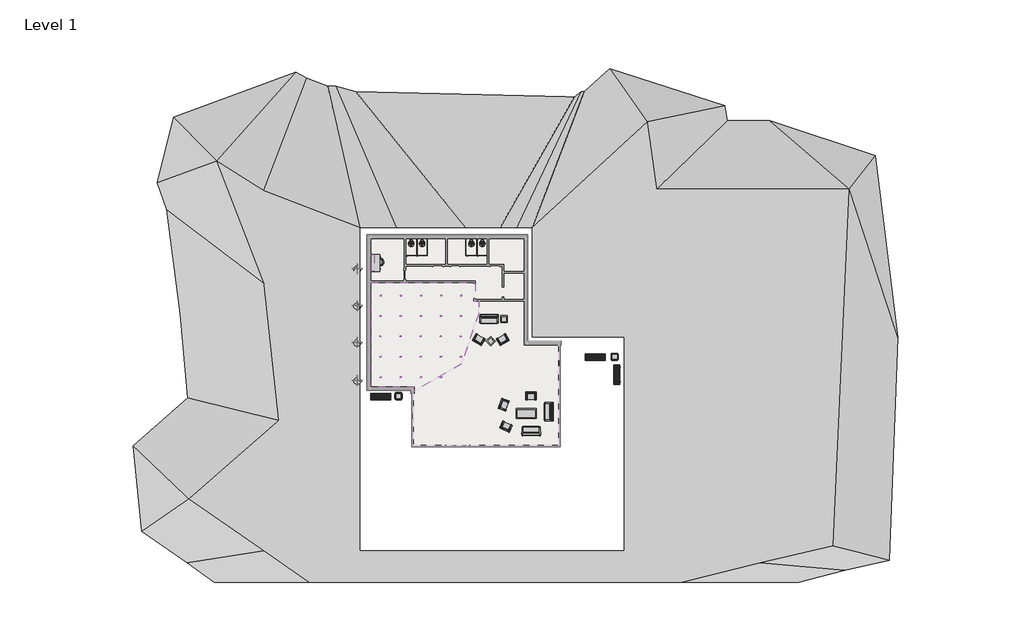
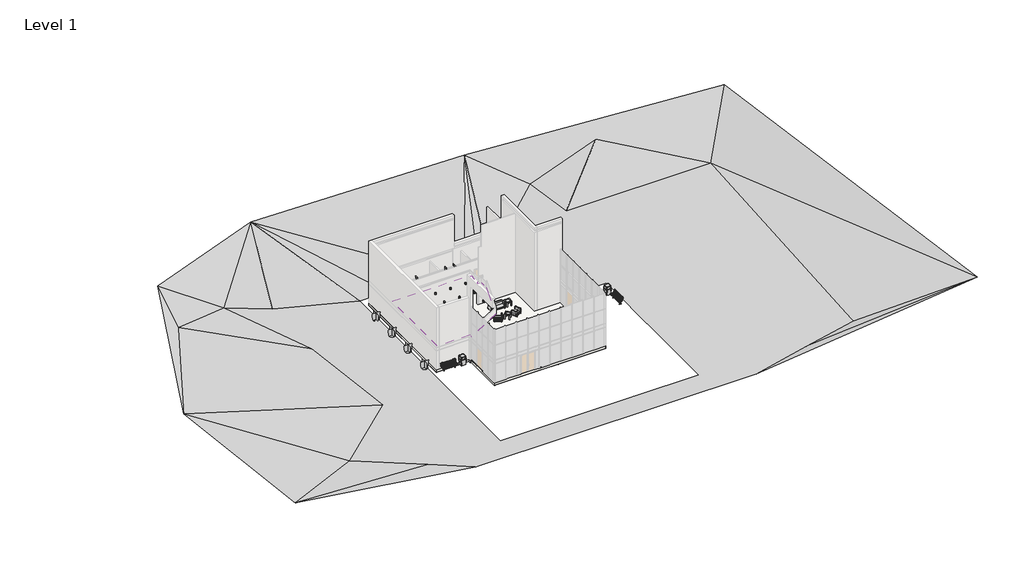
# One storey, part 6 of 6: 24 light fixtures, 14 furniture elements, 9 geographic elements, 4 flow terminals, 4 proxies, 2 slabs, 1 covering.
"""IFC4 building model written with IfcOpenShell, lengths in millimetres."""

from ifc_helpers import new_model, si_unit, point, frame, frame_2d, origin, place, context, project, spatial, polyline, circle_curve, trimmed, segment, composite_curve, outline, extrude, triangles, transform, mapped, element, save
from components import toilet_partition_left_panel_86e2c154, toilet_partition_right_panel_75b5ee8c, m_toilet_commercial_wall_3d_380mm_seat_height_891fc42f, m_chair_corbu_m_chair_corbu_62085674, m_chair_corbu_m_chair_corbu_af930865, m_chair_executive_m_chair_executive_8d69e98c, m_desk_1525_x_762mm_8f660baf, m_sofa_pensi_1650mm_31461fb8, m_table_coffee_0610_x_0610_x_0610mm_65ce43c2, m_table_coffee_0915_x_1830_x_0457mm_134cd960, wall_storage_m_overhead_storage_module_2a725d0f, m_park_bench_1800mm_affd9039, m_trash_can_m_trash_can_952d1acd, rpc_shrub_boxwood_31a8b93a, m_downlight_recessed_can_152mm_incandescent_120v_9e946963

model = new_model("IFC4")

# Units and contexts
model_context = context("Model", 3, world=origin())
ifc_project = project(units=[si_unit("LENGTHUNIT", "METRE", prefix="MILLI")], contexts=[model_context])

# Site, building, storey
site = spatial("IfcSite", under=ifc_project)
building = spatial("IfcBuilding", under=site)
storey = spatial("IfcBuildingStorey", under=building, Name="Level 1", Elevation=45720.0)

# Proxies
placement = place(None, origin())
element("IfcBuildingElementProxy", 1, Name="Building Element Proxy", at=placement, inside=storey, context=model_context, shape_type="Tessellation", body=[
    triangles([(-41428.1642944, -20498.1557922, 48768.0), (-19551.4159058, -20498.1557922, 45720.0), (14417.4734619, -20498.1557922, 45720.0), (41237.1573486, -20498.1557922, 48768.0), (35819.3880432, 23255.3409851, 48768.0), (6851.5562073, 27630.6901978, 47244.0), (-18646.1711609, 28234.1859192, 47244.0), (-32979.2148926, 22953.5919617, 47244.0), (-43389.5282959, -582.771405, 48768.0), (-14938.2288849, -17638.8082306, 45732.6782959), (-14938.2288849, -17593.1110199, 45732.7015503), (-14938.2288849, -13234.14104, 45732.7015503), (-14938.2288849, -10756.0423004, 45744.6124512), (-14938.2288849, -3075.3747826, 45769.6388306), (-14938.2288849, -1483.2915836, 45774.8292114), (-14938.2288849, 2511.0714363, 45785.5262329), (-14938.2288849, 5032.5556091, 45788.5772095), (-14938.2288849, 11773.3104401, 45772.9549072), (-11600.6105164, 11773.3104401, 45770.8015503), (-5282.8159149, 11773.3104401, 45949.5301758), (-2147.8218063, 11773.3104401, 45955.4833008), (-634.5518927, 11773.3104401, 45775.6570679), (758.9712605, 11773.3104401, 45773.6106812), (758.9712605, 11061.46203, 45770.8015503), (758.9712605, 8665.1617859, 45754.8955444), (758.9712605, 5052.8747177, 45774.6059692), (758.9712605, 2919.9441536, 45780.5125854), (758.9712605, 1803.1890633, 45779.0754639), (3604.4020844, 1803.1890633, 45768.2528687), (9140.9711151, 1803.1890633, 45738.3849243), (9140.9711151, 1450.7640633, 45739.3616089), (9140.9711151, -369.7655477, 45744.4031616), (9140.9711151, -6338.6264694, 45736.7292114), (9140.9711151, -7307.9707901, 45732.7015503), (9140.9711151, -8053.5514435, 45732.7015503), (9140.9711151, -14295.842514, 45732.7015503), (9140.9711151, -17638.8082306, 45727.6692993), (1262.9813393, -17638.8082306, 45732.7015503), (-14928.8248077, -17638.8082306, 45732.7015503), (9968.4368866, 6832.0393753, 45720.0), (29567.6417358, 15272.2119873, 45796.2), (-23646.2380554, 6725.5726181, 45760.6393799), (-23646.2380554, 15127.1917694, 45770.8015503), (-27925.6977722, 17821.6645111, 45796.2), (11223.416098, 21387.8805542, 45796.2), (12079.5812805, 15272.2119873, 45770.8015503), (18355.8458588, 2130.3199677, 45745.3984497), (11857.4099579, -1435.8949127, 45732.7015503), (-22299.0016846, -5794.6015366, 45732.7015503), (-15800.5669464, -13402.5261108, 45732.7015503), (11619.6628418, -13244.0276459, 45732.7015503), (9955.429541, -7062.5892563, 45732.7015503), (21446.5653442, -18758.8352142, 45732.7015503), (28103.5008728, -17206.48927, 45732.7015503), (-30461.6708862, -12927.0318787, 45732.7015503), (-23646.2380554, -17638.8082306, 45732.7015503), (-34897.5373352, 15272.2119873, 47244.0), (20279.3528687, 23255.3409851, 47244.0)], [[1, 2, 56], [56, 2, 50], [1, 56, 55], [9, 55, 49], [55, 9, 1], [49, 50, 13], [49, 55, 56], [56, 50, 49], [42, 9, 49], [2, 11, 50], [39, 10, 2], [10, 11, 2], [12, 13, 50], [14, 15, 49], [13, 14, 49], [11, 12, 50], [2, 38, 39], [16, 49, 15], [43, 42, 18], [42, 43, 44], [18, 42, 17], [43, 18, 7], [57, 8, 9], [8, 57, 44], [44, 7, 8], [7, 44, 43], [57, 42, 44], [18, 19, 7], [42, 57, 9], [16, 17, 42], [26, 27, 29], [7, 20, 6], [20, 21, 6], [7, 19, 20], [42, 49, 16], [6, 21, 22], [37, 38, 3], [51, 35, 36], [48, 32, 33], [52, 33, 34], [35, 52, 34], [36, 37, 51], [3, 4, 53], [53, 4, 54], [3, 53, 51], [48, 52, 47], [51, 52, 35], [54, 47, 53], [51, 47, 52], [47, 51, 53], [52, 48, 33], [54, 4, 41], [3, 51, 37], [38, 2, 3], [32, 48, 31], [29, 40, 26], [25, 26, 40], [24, 25, 40], [23, 6, 22], [40, 23, 24], [45, 6, 23], [29, 30, 40], [29, 27, 28], [46, 23, 40], [30, 47, 40], [46, 47, 41], [47, 46, 40], [48, 47, 30], [46, 45, 23], [45, 58, 6], [45, 46, 58], [41, 5, 58], [5, 41, 4], [46, 41, 58], [58, 5, 6], [47, 54, 41], [31, 48, 30]], closed=False),
])
element("IfcBuildingElementProxy", 2, Name="Building Element Proxy", at=placement, inside=storey, context=model_context, shape_type="Tessellation", body=[
    triangles([(-14264.2316528, -3075.3747826, 45419.8415771), (-14264.2316528, -3075.3747826, 45772.2107666), (-12435.5397858, -3075.3747826, 45419.8415771), (-12435.5397858, -3075.3747826, 45779.187085), (-10301.8316528, -3075.3747826, 45419.8415771), (-10301.8316528, -3075.3747826, 45777.1825562), (-10301.8316528, -3321.4373795, 45419.8415771), (-10301.8316528, -3321.4373795, 45776.0012329), (-10189.1187653, -3321.4373795, 45419.8415771), (-10189.1187653, -3321.4373795, 45775.8942627), (-10189.1187653, -8172.8371857, 45419.8415771), (-10189.1187653, -8172.8371857, 45752.5747559), (-4408.8669342, -8172.8371857, 45419.8415771), (-4408.8669342, -8172.8371857, 45747.1471802), (-2489.5785622, -8172.8371857, 45419.8415771), (-2489.5785622, -8172.8371857, 45743.6683228), (3301.4563316, -8172.8371857, 45419.8415771), (3301.4563316, -8172.8371857, 45736.4176025), (3301.4563316, -1147.9467184, 45419.8415771), (3301.4563316, -1147.9467184, 45765.6111694), (3301.4563316, 1100.7639879, 45419.8415771), (3301.4563316, 1100.7639879, 45768.5040161), (3414.1686378, 1100.7639879, 45419.8415771), (3414.1686378, 1100.7639879, 45768.0714844), (3414.1686378, 1450.7640633, 45419.8415771), (3414.1686378, 1450.7640633, 45768.5226196)], [[1, 4, 2], [1, 3, 4], [3, 6, 4], [3, 5, 6], [5, 8, 6], [5, 7, 8], [7, 10, 8], [7, 9, 10], [9, 12, 10], [9, 11, 12], [11, 14, 12], [11, 13, 14], [13, 16, 14], [13, 15, 16], [15, 18, 16], [15, 17, 18], [17, 20, 18], [17, 19, 20], [19, 22, 20], [19, 21, 22], [21, 24, 22], [21, 23, 24], [23, 26, 24], [23, 25, 26]], closed=False),
    triangles([(377.9066568, 1450.7640633, 45419.8415771), (377.9066568, 1450.7640633, 45780.070752), (366.1687105, 1450.7640633, 45419.8415771), (366.1687105, 1450.7640633, 45780.0847046), (366.1687105, 1461.1977287, 45419.8415771), (366.1687105, 1461.1977287, 45780.1312134), (366.1687105, 3074.1085808, 45419.8415771), (366.1687105, 3074.1085808, 45782.2008545), (366.1687105, 4976.9898148, 45419.8415771), (366.1687105, 4976.9898148, 45776.9360596), (366.1687105, 8743.3482925, 45419.8415771), (366.1687105, 8743.3482925, 45756.3838257), (366.1687105, 10915.3581573, 45419.8415771), (366.1687105, 10915.3581573, 45770.8015503), (366.1687105, 11107.3499268, 45419.8415771), (366.1687105, 11107.3499268, 45771.5596436), (-1455.9032845, 11107.3499268, 45419.8415771), (-1455.9032845, 11107.3499268, 45774.2338989), (-2525.7676323, 11107.3499268, 45419.8415771), (-2525.7676323, 11107.3499268, 45901.3656738), (-4742.1724617, 11107.3499268, 45419.8415771), (-4742.1724617, 11107.3499268, 45897.1612793), (-9208.7803482, 11107.3499268, 45419.8415771), (-9208.7803482, 11107.3499268, 45770.8015503), (-14264.2316528, 11107.3499268, 45419.8415771), (-14264.2316528, 11107.3499268, 45774.0618164)], [[1, 4, 2], [1, 3, 4], [3, 6, 4], [3, 5, 6], [5, 8, 6], [5, 7, 8], [7, 10, 8], [7, 9, 10], [9, 12, 10], [9, 11, 12], [11, 14, 12], [11, 13, 14], [13, 16, 14], [13, 15, 16], [15, 18, 16], [15, 17, 18], [17, 20, 18], [17, 19, 20], [19, 22, 20], [19, 21, 22], [21, 24, 22], [21, 23, 24], [23, 26, 24], [23, 25, 26]], closed=False),
    triangles([(-14264.2316528, 11107.3499268, 45419.8415771), (-14264.2316528, 11107.3499268, 45774.0618164), (-14264.2316528, 4251.2335327, 45419.8415771), (-14264.2316528, 4251.2335327, 45789.9538696), (-14264.2316528, 2184.8701263, 45419.8415771), (-14264.2316528, 2184.8701263, 45787.4563477), (-14264.2316528, -1088.5216393, 45419.8415771), (-14264.2316528, -1088.5216393, 45778.68479), (-14264.2316528, -3075.3747826, 45419.8415771), (-14264.2316528, -3075.3747826, 45772.2107666)], [[1, 4, 2], [1, 3, 4], [3, 6, 4], [3, 5, 6], [5, 8, 6], [5, 7, 8], [7, 10, 8], [7, 9, 10]], closed=False),
    triangles([(-14264.2316528, 11107.3499268, 45419.8415771), (-14264.2316528, -3075.3747826, 45419.8415771), (-10301.8316528, -3075.3747826, 45419.8415771), (-10301.8316528, -3321.4373795, 45419.8415771), (-10189.1187653, -3321.4373795, 45419.8415771), (-10189.1187653, -8172.8371857, 45419.8415771), (3301.4563316, -8172.8371857, 45419.8415771), (3301.4563316, 1100.7639879, 45419.8415771), (3414.1686378, 1100.7639879, 45419.8415771), (3414.1686378, 1450.7640633, 45419.8415771), (366.1687105, 1450.7640633, 45419.8415771), (366.1687105, 11107.3499268, 45419.8415771)], [[5, 6, 7], [4, 5, 3], [1, 2, 3], [11, 1, 3], [3, 5, 11], [7, 8, 11], [8, 9, 10], [10, 11, 8], [11, 12, 1], [7, 11, 5]], closed=False),
])
toilet_partition_left_panel_shape = toilet_partition_left_panel_86e2c154(model_context)
element("IfcBuildingElementProxy", 3, Name="Toilet Partition : Left Panel", ObjectType="Toilet Partition : Left Panel", at=placement, inside=storey, context=model_context, shape_type="MappedRepresentation", body=[
    mapped(toilet_partition_left_panel_shape, transform((-4228.0563072, 9199.1751138, 45720.0), x_axis=(1.0, 0.0, 0.0), y_axis=(0.0, 1.0, 0.0), z_axis=(0.0, 0.0, 1.0))),
])
toilet_partition_right_panel_shape = toilet_partition_right_panel_75b5ee8c(model_context)
element("IfcBuildingElementProxy", 4, Name="Toilet Partition : Right Panel", ObjectType="Toilet Partition : Right Panel", at=placement, inside=storey, context=model_context, shape_type="MappedRepresentation", body=[
    mapped(toilet_partition_right_panel_shape, transform((-9689.0560279, 9199.1751138, 45720.0), x_axis=(1.0, 0.0, 0.0), y_axis=(0.0, 1.0, 0.0), z_axis=(0.0, 0.0, 1.0))),
])

# Covering
element("IfcCovering", 5, ObjectType="Plain", at=placement, inside=storey, context=model_context, shape_type="SweptSolid", body=[
    extrude(outline(composite_curve([segment(polyline([(-13914.2313072, 6754.4001138), (-4531.8153553, 6754.4001138), (-4531.8153553, 6665.5251138), (-4404.7653553, 6665.5251138), (-4404.7653553, 5293.9251138), (-4531.8153553, 5293.9251138), (-4531.8153553, 5078.0001138), (-4111.4066434, 5078.0001138), (-4111.4066434, 3987.7203366)]), True, "CONTINUOUS"), segment(trimmed(circle_curve(frame_2d((-10970.1665049, 3705.9461435)), 6864.545399), [point((-4111.4066434, 3987.7203366))], [point((-9951.8313072, -3082.6455337))], False, "CARTESIAN"), True, "CONTINUOUS"), segment(polyline([(-9951.8313072, -3082.6455337), (-9951.8313072, -2725.3748862), (-13914.2313072, -2725.3748862), (-13914.2313072, 6635.1698262), (-13914.2313072, 6754.4001138)]), True, "CONTINUOUS")], self_intersect=False), holes=[composite_curve([segment(trimmed(circle_curve(frame_2d((-5706.0188072, 3714.1698262)), 75.0), [point((-5781.0188072, 3714.1698262))], [point((-5631.0188072, 3714.1698262))], True, "CARTESIAN"), True, "CONTINUOUS"), segment(trimmed(circle_curve(frame_2d((-5706.0188072, 3714.1698262)), 75.0), [point((-5631.0188072, 3714.1698262))], [point((-5781.0188072, 3714.1698262))], True, "CARTESIAN"), True, "CONTINUOUS")], self_intersect=False), composite_curve([segment(trimmed(circle_curve(frame_2d((-5706.0188072, 5573.3251138)), 75.0), [point((-5781.0188072, 5573.3251138))], [point((-5631.0188072, 5573.3251138))], True, "CARTESIAN"), True, "CONTINUOUS"), segment(trimmed(circle_curve(frame_2d((-5706.0188072, 5573.3251138)), 75.0), [point((-5631.0188072, 5573.3251138))], [point((-5781.0188072, 5573.3251138))], True, "CARTESIAN"), True, "CONTINUOUS")], self_intersect=False), composite_curve([segment(trimmed(circle_curve(frame_2d((-7534.8188072, 3714.1698262)), 75.0), [point((-7609.8188072, 3714.1698262))], [point((-7459.8188072, 3714.1698262))], True, "CARTESIAN"), True, "CONTINUOUS"), segment(trimmed(circle_curve(frame_2d((-7534.8188072, 3714.1698262)), 75.0), [point((-7459.8188072, 3714.1698262))], [point((-7609.8188072, 3714.1698262))], True, "CARTESIAN"), True, "CONTINUOUS")], self_intersect=False), composite_curve([segment(trimmed(circle_curve(frame_2d((-7534.8188072, 5573.3251138)), 75.0), [point((-7609.8188072, 5573.3251138))], [point((-7459.8188072, 5573.3251138))], True, "CARTESIAN"), True, "CONTINUOUS"), segment(trimmed(circle_curve(frame_2d((-7534.8188072, 5573.3251138)), 75.0), [point((-7459.8188072, 5573.3251138))], [point((-7609.8188072, 5573.3251138))], True, "CARTESIAN"), True, "CONTINUOUS")], self_intersect=False), composite_curve([segment(trimmed(circle_curve(frame_2d((-9363.6188072, 3714.1698262)), 75.0), [point((-9438.6188072, 3714.1698262))], [point((-9288.6188072, 3714.1698262))], True, "CARTESIAN"), True, "CONTINUOUS"), segment(trimmed(circle_curve(frame_2d((-9363.6188072, 3714.1698262)), 75.0), [point((-9288.6188072, 3714.1698262))], [point((-9438.6188072, 3714.1698262))], True, "CARTESIAN"), True, "CONTINUOUS")], self_intersect=False), composite_curve([segment(trimmed(circle_curve(frame_2d((-9363.6188072, 5573.3251138)), 75.0), [point((-9438.6188072, 5573.3251138))], [point((-9288.6188072, 5573.3251138))], True, "CARTESIAN"), True, "CONTINUOUS"), segment(trimmed(circle_curve(frame_2d((-9363.6188072, 5573.3251138)), 75.0), [point((-9288.6188072, 5573.3251138))], [point((-9438.6188072, 5573.3251138))], True, "CARTESIAN"), True, "CONTINUOUS")], self_intersect=False), composite_curve([segment(trimmed(circle_curve(frame_2d((-11192.4188072, 3714.1698262)), 75.0), [point((-11267.4188072, 3714.1698262))], [point((-11117.4188072, 3714.1698262))], True, "CARTESIAN"), True, "CONTINUOUS"), segment(trimmed(circle_curve(frame_2d((-11192.4188072, 3714.1698262)), 75.0), [point((-11117.4188072, 3714.1698262))], [point((-11267.4188072, 3714.1698262))], True, "CARTESIAN"), True, "CONTINUOUS")], self_intersect=False), composite_curve([segment(trimmed(circle_curve(frame_2d((-11192.4188072, 5573.3251138)), 75.0), [point((-11267.4188072, 5573.3251138))], [point((-11117.4188072, 5573.3251138))], True, "CARTESIAN"), True, "CONTINUOUS"), segment(trimmed(circle_curve(frame_2d((-11192.4188072, 5573.3251138)), 75.0), [point((-11117.4188072, 5573.3251138))], [point((-11267.4188072, 5573.3251138))], True, "CARTESIAN"), True, "CONTINUOUS")], self_intersect=False), composite_curve([segment(trimmed(circle_curve(frame_2d((-13021.2188072, 3714.1698262)), 75.0), [point((-13096.2188072, 3714.1698262))], [point((-12946.2188072, 3714.1698262))], True, "CARTESIAN"), True, "CONTINUOUS"), segment(trimmed(circle_curve(frame_2d((-13021.2188072, 3714.1698262)), 75.0), [point((-12946.2188072, 3714.1698262))], [point((-13096.2188072, 3714.1698262))], True, "CARTESIAN"), True, "CONTINUOUS")], self_intersect=False), composite_curve([segment(trimmed(circle_curve(frame_2d((-13021.2188072, 5573.3251138)), 75.0), [point((-13096.2188072, 5573.3251138))], [point((-12946.2188072, 5573.3251138))], True, "CARTESIAN"), True, "CONTINUOUS"), segment(trimmed(circle_curve(frame_2d((-13021.2188072, 5573.3251138)), 75.0), [point((-12946.2188072, 5573.3251138))], [point((-13096.2188072, 5573.3251138))], True, "CARTESIAN"), True, "CONTINUOUS")], self_intersect=False), composite_curve([segment(trimmed(circle_curve(frame_2d((-5706.0188072, 1859.9698262)), 75.0), [point((-5781.0188072, 1859.9698262))], [point((-5631.0188072, 1859.9698262))], True, "CARTESIAN"), True, "CONTINUOUS"), segment(trimmed(circle_curve(frame_2d((-5706.0188072, 1859.9698262)), 75.0), [point((-5631.0188072, 1859.9698262))], [point((-5781.0188072, 1859.9698262))], True, "CARTESIAN"), True, "CONTINUOUS")], self_intersect=False), composite_curve([segment(trimmed(circle_curve(frame_2d((-7534.8188072, 1859.9698262)), 75.0), [point((-7609.8188072, 1859.9698262))], [point((-7459.8188072, 1859.9698262))], True, "CARTESIAN"), True, "CONTINUOUS"), segment(trimmed(circle_curve(frame_2d((-7534.8188072, 1859.9698262)), 75.0), [point((-7459.8188072, 1859.9698262))], [point((-7609.8188072, 1859.9698262))], True, "CARTESIAN"), True, "CONTINUOUS")], self_intersect=False), composite_curve([segment(trimmed(circle_curve(frame_2d((-9363.6188072, 1859.9698262)), 75.0), [point((-9438.6188072, 1859.9698262))], [point((-9288.6188072, 1859.9698262))], True, "CARTESIAN"), True, "CONTINUOUS"), segment(trimmed(circle_curve(frame_2d((-9363.6188072, 1859.9698262)), 75.0), [point((-9288.6188072, 1859.9698262))], [point((-9438.6188072, 1859.9698262))], True, "CARTESIAN"), True, "CONTINUOUS")], self_intersect=False), composite_curve([segment(trimmed(circle_curve(frame_2d((-11192.4188072, 1859.9698262)), 75.0), [point((-11267.4188072, 1859.9698262))], [point((-11117.4188072, 1859.9698262))], True, "CARTESIAN"), True, "CONTINUOUS"), segment(trimmed(circle_curve(frame_2d((-11192.4188072, 1859.9698262)), 75.0), [point((-11117.4188072, 1859.9698262))], [point((-11267.4188072, 1859.9698262))], True, "CARTESIAN"), True, "CONTINUOUS")], self_intersect=False), composite_curve([segment(trimmed(circle_curve(frame_2d((-13021.2188072, 1859.9698262)), 75.0), [point((-13096.2188072, 1859.9698262))], [point((-12946.2188072, 1859.9698262))], True, "CARTESIAN"), True, "CONTINUOUS"), segment(trimmed(circle_curve(frame_2d((-13021.2188072, 1859.9698262)), 75.0), [point((-12946.2188072, 1859.9698262))], [point((-13096.2188072, 1859.9698262))], True, "CARTESIAN"), True, "CONTINUOUS")], self_intersect=False), composite_curve([segment(trimmed(circle_curve(frame_2d((-7534.8188072, 5.7698262)), 75.0), [point((-7609.8188072, 5.7698262))], [point((-7459.8188072, 5.7698262))], True, "CARTESIAN"), True, "CONTINUOUS"), segment(trimmed(circle_curve(frame_2d((-7534.8188072, 5.7698262)), 75.0), [point((-7459.8188072, 5.7698262))], [point((-7609.8188072, 5.7698262))], True, "CARTESIAN"), True, "CONTINUOUS")], self_intersect=False), composite_curve([segment(trimmed(circle_curve(frame_2d((-9363.6188072, 5.7698262)), 75.0), [point((-9438.6188072, 5.7698262))], [point((-9288.6188072, 5.7698262))], True, "CARTESIAN"), True, "CONTINUOUS"), segment(trimmed(circle_curve(frame_2d((-9363.6188072, 5.7698262)), 75.0), [point((-9288.6188072, 5.7698262))], [point((-9438.6188072, 5.7698262))], True, "CARTESIAN"), True, "CONTINUOUS")], self_intersect=False), composite_curve([segment(trimmed(circle_curve(frame_2d((-11192.4188072, 5.7698262)), 75.0), [point((-11267.4188072, 5.7698262))], [point((-11117.4188072, 5.7698262))], True, "CARTESIAN"), True, "CONTINUOUS"), segment(trimmed(circle_curve(frame_2d((-11192.4188072, 5.7698262)), 75.0), [point((-11117.4188072, 5.7698262))], [point((-11267.4188072, 5.7698262))], True, "CARTESIAN"), True, "CONTINUOUS")], self_intersect=False), composite_curve([segment(trimmed(circle_curve(frame_2d((-13021.2188072, 5.7698262)), 75.0), [point((-13096.2188072, 5.7698262))], [point((-12946.2188072, 5.7698262))], True, "CARTESIAN"), True, "CONTINUOUS"), segment(trimmed(circle_curve(frame_2d((-13021.2188072, 5.7698262)), 75.0), [point((-12946.2188072, 5.7698262))], [point((-13096.2188072, 5.7698262))], True, "CARTESIAN"), True, "CONTINUOUS")], self_intersect=False), composite_curve([segment(trimmed(circle_curve(frame_2d((-7534.8188072, -1848.4301738)), 75.0), [point((-7609.8188072, -1848.4301738))], [point((-7459.8188072, -1848.4301738))], True, "CARTESIAN"), True, "CONTINUOUS"), segment(trimmed(circle_curve(frame_2d((-7534.8188072, -1848.4301738)), 75.0), [point((-7459.8188072, -1848.4301738))], [point((-7609.8188072, -1848.4301738))], True, "CARTESIAN"), True, "CONTINUOUS")], self_intersect=False), composite_curve([segment(trimmed(circle_curve(frame_2d((-9363.6188072, -1848.4301738)), 75.0), [point((-9438.6188072, -1848.4301738))], [point((-9288.6188072, -1848.4301738))], True, "CARTESIAN"), True, "CONTINUOUS"), segment(trimmed(circle_curve(frame_2d((-9363.6188072, -1848.4301738)), 75.0), [point((-9288.6188072, -1848.4301738))], [point((-9438.6188072, -1848.4301738))], True, "CARTESIAN"), True, "CONTINUOUS")], self_intersect=False), composite_curve([segment(trimmed(circle_curve(frame_2d((-11192.4188072, -1848.4301738)), 75.0), [point((-11267.4188072, -1848.4301738))], [point((-11117.4188072, -1848.4301738))], True, "CARTESIAN"), True, "CONTINUOUS"), segment(trimmed(circle_curve(frame_2d((-11192.4188072, -1848.4301738)), 75.0), [point((-11117.4188072, -1848.4301738))], [point((-11267.4188072, -1848.4301738))], True, "CARTESIAN"), True, "CONTINUOUS")], self_intersect=False), composite_curve([segment(trimmed(circle_curve(frame_2d((-13021.2188072, -1848.4301738)), 75.0), [point((-13096.2188072, -1848.4301738))], [point((-12946.2188072, -1848.4301738))], True, "CARTESIAN"), True, "CONTINUOUS"), segment(trimmed(circle_curve(frame_2d((-13021.2188072, -1848.4301738)), 75.0), [point((-12946.2188072, -1848.4301738))], [point((-13096.2188072, -1848.4301738))], True, "CARTESIAN"), True, "CONTINUOUS")], self_intersect=False), composite_curve([segment(trimmed(circle_curve(frame_2d((-5706.0188072, 5.7698262)), 75.0), [point((-5781.0188072, 5.7698262))], [point((-5631.0188072, 5.7698262))], True, "CARTESIAN"), True, "CONTINUOUS"), segment(trimmed(circle_curve(frame_2d((-5706.0188072, 5.7698262)), 75.0), [point((-5631.0188072, 5.7698262))], [point((-5781.0188072, 5.7698262))], True, "CARTESIAN"), True, "CONTINUOUS")], self_intersect=False)]), frame((0.0, 0.0, 48463.2), z_axis=(0.0, 0.0, 1.0), x_axis=(1.0, 0.0, 0.0)), (0.0, 0.0, 1.0), 57.0),
])

# Flow terminals
m_toilet_commercial_wall_3d_380mm_seat_height_shape = m_toilet_commercial_wall_3d_380mm_seat_height_891fc42f(model_context)
element("IfcFlowTerminal", 6, ObjectType="M_Toilet-Commercial-Wall-3D : 380mm Seat Height", at=placement, inside=storey, context=model_context, shape_type="MappedRepresentation", body=[
    mapped(m_toilet_commercial_wall_3d_380mm_seat_height_shape, transform((-4362.9031534, 10932.3501138, 45720.0), x_axis=(-1.0, 0.0, 0.0), y_axis=(0.0, -1.0, 0.0), z_axis=(0.0, 0.0, 1.0))),
])
element("IfcFlowTerminal", 7, ObjectType="M_Toilet-Commercial-Wall-3D : 380mm Seat Height", at=placement, inside=storey, context=model_context, shape_type="MappedRepresentation", body=[
    mapped(m_toilet_commercial_wall_3d_380mm_seat_height_shape, transform((-3365.9531534, 10932.3501138, 45720.0), x_axis=(-1.0, 0.0, 0.0), y_axis=(0.0, -1.0, 0.0), z_axis=(0.0, 0.0, 1.0))),
])
element("IfcFlowTerminal", 8, ObjectType="M_Toilet-Commercial-Wall-3D : 380mm Seat Height", at=placement, inside=storey, context=model_context, shape_type="MappedRepresentation", body=[
    mapped(m_toilet_commercial_wall_3d_380mm_seat_height_shape, transform((-9836.6028741, 10932.3501138, 45720.0), x_axis=(-1.0, 0.0, 0.0), y_axis=(0.0, -1.0, 0.0), z_axis=(0.0, 0.0, 1.0))),
])
element("IfcFlowTerminal", 9, ObjectType="M_Toilet-Commercial-Wall-3D : 380mm Seat Height", at=placement, inside=storey, context=model_context, shape_type="MappedRepresentation", body=[
    mapped(m_toilet_commercial_wall_3d_380mm_seat_height_shape, transform((-8839.6528741, 10932.3501138, 45720.0), x_axis=(-1.0, 0.0, 0.0), y_axis=(0.0, -1.0, 0.0), z_axis=(0.0, 0.0, 1.0))),
])

# Furniture
m_chair_corbu_m_chair_corbu_shape = m_chair_corbu_m_chair_corbu_62085674(model_context)
element("IfcFurniture", 10, ObjectType="M_Chair-Corbu : M_Chair-Corbu", at=placement, inside=storey, context=model_context, shape_type="MappedRepresentation", body=[
    mapped(m_chair_corbu_m_chair_corbu_shape, transform((-3364.9045663, 1687.1656632, 45720.0), x_axis=(-0.8660254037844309, 0.5000000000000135, 0.0), y_axis=(-0.5000000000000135, -0.8660254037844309, 0.0), z_axis=(0.0, 0.0, 1.0))),
])
element("IfcFurniture", 11, ObjectType="M_Chair-Corbu : M_Chair-Corbu", at=placement, inside=storey, context=model_context, shape_type="MappedRepresentation", body=[
    mapped(m_chair_corbu_m_chair_corbu_shape, transform((-1575.5129686, -5056.2676777, 45720.0), x_axis=(0.3255681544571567, 0.9455185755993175, 0.0), y_axis=(-0.9455185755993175, 0.3255681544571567, 0.0), z_axis=(0.0, 0.0, 1.0))),
])
element("IfcFurniture", 12, ObjectType="M_Chair-Corbu : M_Chair-Corbu", at=placement, inside=storey, context=model_context, shape_type="MappedRepresentation", body=[
    mapped(m_chair_corbu_m_chair_corbu_shape, transform((-900.9288538, -6150.1458279, 45720.0), x_axis=(-0.9135454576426, 0.40673664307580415, 0.0), y_axis=(-0.40673664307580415, -0.9135454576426, 0.0), z_axis=(0.0, 0.0, 1.0))),
])
element("IfcFurniture", 13, ObjectType="M_Chair-Corbu : M_Chair-Corbu", at=placement, inside=storey, context=model_context, shape_type="MappedRepresentation", body=[
    mapped(m_chair_corbu_m_chair_corbu_shape, transform((73.7824223, -4018.2255465, 45720.0), x_axis=(1.0, 0.0, 0.0), y_axis=(0.0, 1.0, 0.0), z_axis=(0.0, 0.0, 1.0))),
])
m_chair_corbu_m_chair_corbu_2_shape = m_chair_corbu_m_chair_corbu_af930865(model_context)
element("IfcFurniture", 14, ObjectType="M_Chair-Corbu : M_Chair-Corbu", at=placement, inside=storey, context=model_context, shape_type="MappedRepresentation", body=[
    mapped(m_chair_corbu_m_chair_corbu_2_shape, transform((-2645.916353, 1687.1656632, 45720.0), x_axis=(0.8660254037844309, 0.5000000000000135, 0.0), y_axis=(-0.5000000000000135, 0.8660254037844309, 0.0), z_axis=(0.0, 0.0, 1.0))),
])
m_chair_executive_m_chair_executive_shape = m_chair_executive_m_chair_executive_8d69e98c(model_context)
element("IfcFurniture", 15, ObjectType="M_Chair-Executive : M_Chair-Executive", at=placement, inside=storey, context=model_context, shape_type="MappedRepresentation", body=[
    mapped(m_chair_executive_m_chair_executive_shape, transform((-13092.7604056, 8480.3342941, 45720.0), x_axis=(0.0, 1.0, 0.0), y_axis=(-1.0, 0.0, 0.0), z_axis=(0.0, 0.0, 1.0))),
])
m_desk_1525_x_762mm_shape = m_desk_1525_x_762mm_8f660baf(model_context)
element("IfcFurniture", 16, ObjectType="M_Desk : 1525 x 762mm", at=placement, inside=storey, context=model_context, shape_type="MappedRepresentation", body=[
    mapped(m_desk_1525_x_762mm_shape, transform((-13108.8563072, 7779.7751138, 45720.0), x_axis=(0.0, 1.0, 0.0), y_axis=(-1.0, 0.0, 0.0), z_axis=(0.0, 0.0, 1.0))),
])
m_sofa_pensi_1650mm_shape = m_sofa_pensi_1650mm_31461fb8(model_context)
element("IfcFurniture", 17, ObjectType="M_Sofa-Pensi : 1650mm", at=placement, inside=storey, context=model_context, shape_type="MappedRepresentation", body=[
    mapped(m_sofa_pensi_1650mm_shape, transform((951.1624428, -6486.0275502, 45720.0), x_axis=(-1.0, 0.0, 0.0), y_axis=(0.0, -1.0, 0.0), z_axis=(0.0, 0.0, 1.0))),
])
element("IfcFurniture", 18, ObjectType="M_Sofa-Pensi : 1650mm", at=placement, inside=storey, context=model_context, shape_type="MappedRepresentation", body=[
    mapped(m_sofa_pensi_1650mm_shape, transform((1995.6463567, -4706.5311362, 45720.0), x_axis=(0.0, -1.0, 0.0), y_axis=(1.0, 0.0, 0.0), z_axis=(0.0, 0.0, 1.0))),
])
element("IfcFurniture", 19, ObjectType="M_Sofa-Pensi : 1650mm", at=placement, inside=storey, context=model_context, shape_type="MappedRepresentation", body=[
    mapped(m_sofa_pensi_1650mm_shape, transform((-3441.4500572, 3162.6152777, 45720.0), x_axis=(1.0, 0.0, 0.0), y_axis=(0.0, 1.0, 0.0), z_axis=(0.0, 0.0, 1.0))),
])
m_table_coffee_0610_x_0610_x_0610mm_shape = m_table_coffee_0610_x_0610_x_0610mm_65ce43c2(model_context)
element("IfcFurniture", 20, ObjectType="M_Table-Coffee : 0610 x 0610 x 0610mm", at=placement, inside=storey, context=model_context, shape_type="MappedRepresentation", body=[
    mapped(m_table_coffee_0610_x_0610_x_0610mm_shape, transform((-3093.6475113, 1365.3306076, 45720.0), x_axis=(0.6953467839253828, -0.7186743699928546, 0.0), y_axis=(0.7186743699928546, 0.6953467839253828, 0.0), z_axis=(0.0, 0.0, 1.0))),
])
element("IfcFurniture", 21, ObjectType="M_Table-Coffee : 0610 x 0610 x 0610mm", at=placement, inside=storey, context=model_context, shape_type="MappedRepresentation", body=[
    mapped(m_table_coffee_0610_x_0610_x_0610mm_shape, transform((-1833.3220739, 3344.514036, 45720.0), x_axis=(1.0, 0.0, 0.0), y_axis=(0.0, 1.0, 0.0), z_axis=(0.0, 0.0, 1.0))),
])
m_table_coffee_0915_x_1830_x_0457mm_shape = m_table_coffee_0915_x_1830_x_0457mm_134cd960(model_context)
element("IfcFurniture", 22, ObjectType="M_Table-Coffee : 0915 x 1830 x 0457mm", at=placement, inside=storey, context=model_context, shape_type="MappedRepresentation", body=[
    mapped(m_table_coffee_0915_x_1830_x_0457mm_shape, transform((233.6219595, -5067.748357, 45720.0), x_axis=(-1.0, 0.0, 0.0), y_axis=(0.0, -1.0, 0.0), z_axis=(0.0, 0.0, 1.0))),
])
wall_storage_m_overhead_storage_module_shape = wall_storage_m_overhead_storage_module_2a725d0f(model_context)
element("IfcFurniture", 23, ObjectType="Wall Storage_m : Overhead Storage Module", at=placement, inside=storey, context=model_context, shape_type="MappedRepresentation", body=[
    mapped(wall_storage_m_overhead_storage_module_shape, transform((-13670.4676682, 8700.1325842, 45720.0), x_axis=(0.0, 1.0, 0.0), y_axis=(-1.0, 0.0, 0.0), z_axis=(0.0, 0.0, 1.0))),
])

# Geographic elements
m_park_bench_1800mm_shape = m_park_bench_1800mm_affd9039(model_context)
element("IfcGeographicElement", 24, ObjectType="M_Park Bench : 1800mm", at=placement, inside=storey, context=model_context, shape_type="MappedRepresentation", body=[
    mapped(m_park_bench_1800mm_shape, transform((6493.0212343, 0.41068, 45754.9490804), x_axis=(1.0, 0.0, 0.0), y_axis=(0.0, 1.0, 0.0), z_axis=(0.0, 0.0, 1.0))),
])
element("IfcGeographicElement", 25, ObjectType="M_Park Bench : 1800mm", at=placement, inside=storey, context=model_context, shape_type="MappedRepresentation", body=[
    mapped(m_park_bench_1800mm_shape, transform((8474.2212343, -1618.83932, 45745.3321721), x_axis=(0.0, -1.0, 0.0), y_axis=(1.0, 0.0, 0.0), z_axis=(0.0, 0.0, 1.0))),
])
element("IfcGeographicElement", 26, ObjectType="M_Park Bench : 1800mm", at=placement, inside=storey, context=model_context, shape_type="MappedRepresentation", body=[
    mapped(m_park_bench_1800mm_shape, transform((-13014.1787657, -3600.03932, 45773.3590698), x_axis=(1.0, 0.0, 0.0), y_axis=(0.0, 1.0, 0.0), z_axis=(0.0, 0.0, 1.0))),
])
m_trash_can_m_trash_can_shape = m_trash_can_m_trash_can_952d1acd(model_context)
element("IfcGeographicElement", 27, ObjectType="M_Trash Can : M_Trash Can", at=placement, inside=storey, context=model_context, shape_type="MappedRepresentation", body=[
    mapped(m_trash_can_m_trash_can_shape, transform((-11388.2552278, -3573.4289276, 45775.8103844), x_axis=(0.9999995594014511, 0.0, -0.0009387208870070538), y_axis=(4.512744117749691e-06, 0.9999884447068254, 0.004807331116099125), z_axis=(0.0009387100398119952, -0.004807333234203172, 0.9999880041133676))),
])
element("IfcGeographicElement", 28, ObjectType="M_Trash Can : M_Trash Can", at=placement, inside=storey, context=model_context, shape_type="MappedRepresentation", body=[
    mapped(m_trash_can_m_trash_can_shape, transform((8255.2185031, 0.41068, 45748.1554803), x_axis=(0.9999854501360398, 0.0, -0.005394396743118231), y_axis=(-1.4934271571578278e-05, 0.9999961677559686, -0.0027684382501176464), z_axis=(0.0053943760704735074, 0.0027684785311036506, 0.9999816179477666))),
])
rpc_shrub_boxwood_shape = rpc_shrub_boxwood_31a8b93a(model_context)
element("IfcGeographicElement", 29, ObjectType="RPC Shrub : Boxwood", at=placement, inside=storey, context=model_context, shape_type="MappedRepresentation", body=[
    mapped(rpc_shrub_boxwood_shape, transform((-15141.4287657, 4657.1474155, 45787.4233242), x_axis=(1.0, 0.0, 0.0), y_axis=(0.0, 1.0, 0.0), z_axis=(0.0, 0.0, 1.0))),
])
element("IfcGeographicElement", 30, ObjectType="RPC Shrub : Boxwood", at=placement, inside=storey, context=model_context, shape_type="MappedRepresentation", body=[
    mapped(rpc_shrub_boxwood_shape, transform((-15141.4287657, 1325.929945, 45781.5090272), x_axis=(1.0, 0.0, 0.0), y_axis=(0.0, 1.0, 0.0), z_axis=(0.0, 0.0, 1.0))),
])
element("IfcGeographicElement", 31, ObjectType="RPC Shrub : Boxwood", at=placement, inside=storey, context=model_context, shape_type="MappedRepresentation", body=[
    mapped(rpc_shrub_boxwood_shape, transform((-15141.4287657, -2143.7025845, 45771.901212), x_axis=(1.0, 0.0, 0.0), y_axis=(0.0, 1.0, 0.0), z_axis=(0.0, 0.0, 1.0))),
])
element("IfcGeographicElement", 32, ObjectType="RPC Shrub : Boxwood", at=placement, inside=storey, context=model_context, shape_type="MappedRepresentation", body=[
    mapped(rpc_shrub_boxwood_shape, transform((-15141.4287657, 8016.2974155, 45781.101183), x_axis=(1.0, 0.0, 0.0), y_axis=(0.0, 1.0, 0.0), z_axis=(0.0, 0.0, 1.0))),
])

# Light fixtures
m_downlight_recessed_can_152mm_incandescent_120v_shape = m_downlight_recessed_can_152mm_incandescent_120v_9e946963(model_context)
element("IfcLightFixture", 33, ObjectType="M_Downlight - Recessed Can : 152mm Incandescent - 120V", at=placement, inside=storey, context=model_context, shape_type="MappedRepresentation", body=[
    mapped(m_downlight_recessed_can_152mm_incandescent_120v_shape, transform((-13021.2188072, 5573.3251138, 46024.8), x_axis=(1.0, 0.0, 0.0), y_axis=(0.0, 1.0, 0.0), z_axis=(0.0, 0.0, 1.0))),
])
element("IfcLightFixture", 34, ObjectType="M_Downlight - Recessed Can : 152mm Incandescent - 120V", at=placement, inside=storey, context=model_context, shape_type="MappedRepresentation", body=[
    mapped(m_downlight_recessed_can_152mm_incandescent_120v_shape, transform((-13021.2188072, 3714.1698262, 46024.8), x_axis=(1.0, 0.0, 0.0), y_axis=(0.0, 1.0, 0.0), z_axis=(0.0, 0.0, 1.0))),
])
element("IfcLightFixture", 35, ObjectType="M_Downlight - Recessed Can : 152mm Incandescent - 120V", at=placement, inside=storey, context=model_context, shape_type="MappedRepresentation", body=[
    mapped(m_downlight_recessed_can_152mm_incandescent_120v_shape, transform((-11192.4188072, 5573.3251138, 46024.8), x_axis=(1.0, 0.0, 0.0), y_axis=(0.0, 1.0, 0.0), z_axis=(0.0, 0.0, 1.0))),
])
element("IfcLightFixture", 36, ObjectType="M_Downlight - Recessed Can : 152mm Incandescent - 120V", at=placement, inside=storey, context=model_context, shape_type="MappedRepresentation", body=[
    mapped(m_downlight_recessed_can_152mm_incandescent_120v_shape, transform((-11192.4188072, 3714.1698262, 46024.8), x_axis=(1.0, 0.0, 0.0), y_axis=(0.0, 1.0, 0.0), z_axis=(0.0, 0.0, 1.0))),
])
element("IfcLightFixture", 37, ObjectType="M_Downlight - Recessed Can : 152mm Incandescent - 120V", at=placement, inside=storey, context=model_context, shape_type="MappedRepresentation", body=[
    mapped(m_downlight_recessed_can_152mm_incandescent_120v_shape, transform((-9363.6188072, 5573.3251138, 46024.8), x_axis=(1.0, 0.0, 0.0), y_axis=(0.0, 1.0, 0.0), z_axis=(0.0, 0.0, 1.0))),
])
element("IfcLightFixture", 38, ObjectType="M_Downlight - Recessed Can : 152mm Incandescent - 120V", at=placement, inside=storey, context=model_context, shape_type="MappedRepresentation", body=[
    mapped(m_downlight_recessed_can_152mm_incandescent_120v_shape, transform((-9363.6188072, 3714.1698262, 46024.8), x_axis=(1.0, 0.0, 0.0), y_axis=(0.0, 1.0, 0.0), z_axis=(0.0, 0.0, 1.0))),
])
element("IfcLightFixture", 39, ObjectType="M_Downlight - Recessed Can : 152mm Incandescent - 120V", at=placement, inside=storey, context=model_context, shape_type="MappedRepresentation", body=[
    mapped(m_downlight_recessed_can_152mm_incandescent_120v_shape, transform((-7534.8188072, 5573.3251138, 46024.8), x_axis=(1.0, 0.0, 0.0), y_axis=(0.0, 1.0, 0.0), z_axis=(0.0, 0.0, 1.0))),
])
element("IfcLightFixture", 40, ObjectType="M_Downlight - Recessed Can : 152mm Incandescent - 120V", at=placement, inside=storey, context=model_context, shape_type="MappedRepresentation", body=[
    mapped(m_downlight_recessed_can_152mm_incandescent_120v_shape, transform((-7534.8188072, 3714.1698262, 46024.8), x_axis=(1.0, 0.0, 0.0), y_axis=(0.0, 1.0, 0.0), z_axis=(0.0, 0.0, 1.0))),
])
element("IfcLightFixture", 41, ObjectType="M_Downlight - Recessed Can : 152mm Incandescent - 120V", at=placement, inside=storey, context=model_context, shape_type="MappedRepresentation", body=[
    mapped(m_downlight_recessed_can_152mm_incandescent_120v_shape, transform((-5706.0188072, 5573.3251138, 46024.8), x_axis=(1.0, 0.0, 0.0), y_axis=(0.0, 1.0, 0.0), z_axis=(0.0, 0.0, 1.0))),
])
element("IfcLightFixture", 42, ObjectType="M_Downlight - Recessed Can : 152mm Incandescent - 120V", at=placement, inside=storey, context=model_context, shape_type="MappedRepresentation", body=[
    mapped(m_downlight_recessed_can_152mm_incandescent_120v_shape, transform((-5706.0188072, 3714.1698262, 46024.8), x_axis=(1.0, 0.0, 0.0), y_axis=(0.0, 1.0, 0.0), z_axis=(0.0, 0.0, 1.0))),
])
element("IfcLightFixture", 43, ObjectType="M_Downlight - Recessed Can : 152mm Incandescent - 120V", at=placement, inside=storey, context=model_context, shape_type="MappedRepresentation", body=[
    mapped(m_downlight_recessed_can_152mm_incandescent_120v_shape, transform((-13021.2188072, 1859.9698262, 46024.8), x_axis=(1.0, 0.0, 0.0), y_axis=(0.0, 1.0, 0.0), z_axis=(0.0, 0.0, 1.0))),
])
element("IfcLightFixture", 44, ObjectType="M_Downlight - Recessed Can : 152mm Incandescent - 120V", at=placement, inside=storey, context=model_context, shape_type="MappedRepresentation", body=[
    mapped(m_downlight_recessed_can_152mm_incandescent_120v_shape, transform((-11192.4188072, 1859.9698262, 46024.8), x_axis=(1.0, 0.0, 0.0), y_axis=(0.0, 1.0, 0.0), z_axis=(0.0, 0.0, 1.0))),
])
element("IfcLightFixture", 45, ObjectType="M_Downlight - Recessed Can : 152mm Incandescent - 120V", at=placement, inside=storey, context=model_context, shape_type="MappedRepresentation", body=[
    mapped(m_downlight_recessed_can_152mm_incandescent_120v_shape, transform((-9363.6188072, 1859.9698262, 46024.8), x_axis=(1.0, 0.0, 0.0), y_axis=(0.0, 1.0, 0.0), z_axis=(0.0, 0.0, 1.0))),
])
element("IfcLightFixture", 46, ObjectType="M_Downlight - Recessed Can : 152mm Incandescent - 120V", at=placement, inside=storey, context=model_context, shape_type="MappedRepresentation", body=[
    mapped(m_downlight_recessed_can_152mm_incandescent_120v_shape, transform((-7534.8188072, 1859.9698262, 46024.8), x_axis=(1.0, 0.0, 0.0), y_axis=(0.0, 1.0, 0.0), z_axis=(0.0, 0.0, 1.0))),
])
element("IfcLightFixture", 47, ObjectType="M_Downlight - Recessed Can : 152mm Incandescent - 120V", at=placement, inside=storey, context=model_context, shape_type="MappedRepresentation", body=[
    mapped(m_downlight_recessed_can_152mm_incandescent_120v_shape, transform((-5706.0188072, 1859.9698262, 46024.8), x_axis=(1.0, 0.0, 0.0), y_axis=(0.0, 1.0, 0.0), z_axis=(0.0, 0.0, 1.0))),
])
element("IfcLightFixture", 48, ObjectType="M_Downlight - Recessed Can : 152mm Incandescent - 120V", at=placement, inside=storey, context=model_context, shape_type="MappedRepresentation", body=[
    mapped(m_downlight_recessed_can_152mm_incandescent_120v_shape, transform((-13021.2188072, 5.7698262, 46024.8), x_axis=(1.0, 0.0, 0.0), y_axis=(0.0, 1.0, 0.0), z_axis=(0.0, 0.0, 1.0))),
])
element("IfcLightFixture", 49, ObjectType="M_Downlight - Recessed Can : 152mm Incandescent - 120V", at=placement, inside=storey, context=model_context, shape_type="MappedRepresentation", body=[
    mapped(m_downlight_recessed_can_152mm_incandescent_120v_shape, transform((-11192.4188072, 5.7698262, 46024.8), x_axis=(1.0, 0.0, 0.0), y_axis=(0.0, 1.0, 0.0), z_axis=(0.0, 0.0, 1.0))),
])
element("IfcLightFixture", 50, ObjectType="M_Downlight - Recessed Can : 152mm Incandescent - 120V", at=placement, inside=storey, context=model_context, shape_type="MappedRepresentation", body=[
    mapped(m_downlight_recessed_can_152mm_incandescent_120v_shape, transform((-9363.6188072, 5.7698262, 46024.8), x_axis=(1.0, 0.0, 0.0), y_axis=(0.0, 1.0, 0.0), z_axis=(0.0, 0.0, 1.0))),
])
element("IfcLightFixture", 51, ObjectType="M_Downlight - Recessed Can : 152mm Incandescent - 120V", at=placement, inside=storey, context=model_context, shape_type="MappedRepresentation", body=[
    mapped(m_downlight_recessed_can_152mm_incandescent_120v_shape, transform((-7534.8188072, 5.7698262, 46024.8), x_axis=(1.0, 0.0, 0.0), y_axis=(0.0, 1.0, 0.0), z_axis=(0.0, 0.0, 1.0))),
])
element("IfcLightFixture", 52, ObjectType="M_Downlight - Recessed Can : 152mm Incandescent - 120V", at=placement, inside=storey, context=model_context, shape_type="MappedRepresentation", body=[
    mapped(m_downlight_recessed_can_152mm_incandescent_120v_shape, transform((-13021.2188072, -1848.4301738, 46024.8), x_axis=(1.0, 0.0, 0.0), y_axis=(0.0, 1.0, 0.0), z_axis=(0.0, 0.0, 1.0))),
])
element("IfcLightFixture", 53, ObjectType="M_Downlight - Recessed Can : 152mm Incandescent - 120V", at=placement, inside=storey, context=model_context, shape_type="MappedRepresentation", body=[
    mapped(m_downlight_recessed_can_152mm_incandescent_120v_shape, transform((-11192.4188072, -1848.4301738, 46024.8), x_axis=(1.0, 0.0, 0.0), y_axis=(0.0, 1.0, 0.0), z_axis=(0.0, 0.0, 1.0))),
])
element("IfcLightFixture", 54, ObjectType="M_Downlight - Recessed Can : 152mm Incandescent - 120V", at=placement, inside=storey, context=model_context, shape_type="MappedRepresentation", body=[
    mapped(m_downlight_recessed_can_152mm_incandescent_120v_shape, transform((-9363.6188072, -1848.4301738, 46024.8), x_axis=(1.0, 0.0, 0.0), y_axis=(0.0, 1.0, 0.0), z_axis=(0.0, 0.0, 1.0))),
])
element("IfcLightFixture", 55, ObjectType="M_Downlight - Recessed Can : 152mm Incandescent - 120V", at=placement, inside=storey, context=model_context, shape_type="MappedRepresentation", body=[
    mapped(m_downlight_recessed_can_152mm_incandescent_120v_shape, transform((-7534.8188072, -1848.4301738, 46024.8), x_axis=(1.0, 0.0, 0.0), y_axis=(0.0, 1.0, 0.0), z_axis=(0.0, 0.0, 1.0))),
])
element("IfcLightFixture", 56, ObjectType="M_Downlight - Recessed Can : 152mm Incandescent - 120V", at=placement, inside=storey, context=model_context, shape_type="MappedRepresentation", body=[
    mapped(m_downlight_recessed_can_152mm_incandescent_120v_shape, transform((-5706.0188072, 5.7698262, 46024.8), x_axis=(1.0, 0.0, 0.0), y_axis=(0.0, 1.0, 0.0), z_axis=(0.0, 0.0, 1.0))),
])

# Slabs
element("IfcSlab", 57, ObjectType="Generic 300mm", at=placement, inside=storey, context=model_context, shape_type="SweptSolid", body=[
    extrude(outline(polyline([(3229.1686928, -8100.5498862), (-10116.8313072, -8100.5498862), (-10116.8313072, -2890.3748862), (-14079.2313072, -2890.3748862), (-14079.2313072, 10922.3501138), (181.1686928, 10922.3501138), (181.1686928, 1265.7640027), (3229.1686928, 1265.7640027), (3229.1686928, -8100.5498862)]), holes=[polyline([(-1815.0563072, 7643.4251138), (-1815.0563072, 5205.0251138), (-11.6563072, 5205.0251138), (-11.6563072, 7643.4251138), (-1815.0563072, 7643.4251138)])]), frame((0.0, 0.0, 45420.0), z_axis=(0.0, 0.0, 1.0), x_axis=(1.0, 0.0, 0.0)), (0.0, 0.0, 1.0), 300.0),
])
element("IfcSlab", 58, ObjectType="Pad 1", at=placement, inside=storey, context=model_context, shape_type="SweptSolid", body=[
    extrude(outline(polyline([(-14264.2313072, 11107.3501138), (366.1686928, 11107.3501138), (366.1686928, 1450.7640027), (3414.1686928, 1450.7640027), (3414.1686928, 1100.7640027), (3301.4561928, 1100.7640027), (3301.4561928, -8172.8373862), (-10189.1188072, -8172.8373862), (-10189.1188072, -3321.4373862), (-10301.8313072, -3321.4373862), (-10301.8313072, -3075.3748862), (-14264.2313072, -3075.3748862), (-14264.2313072, 11107.3501138)])), frame((0.0, 0.0, 45420.0), z_axis=(0.0, 0.0, 1.0), x_axis=(1.0, 0.0, 0.0)), (0.0, 0.0, 1.0), 304.8),
])

save(model, "model.ifc")
